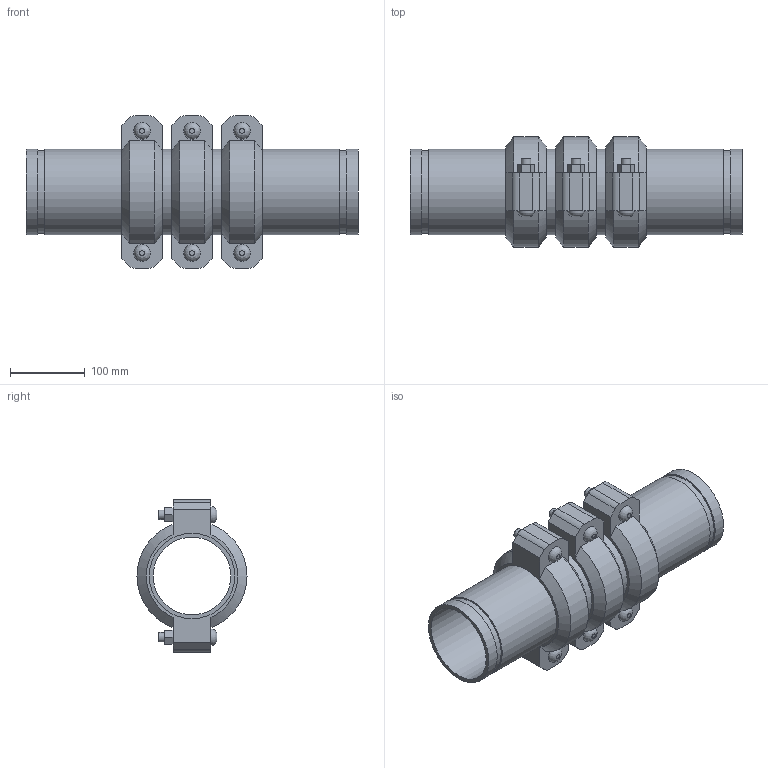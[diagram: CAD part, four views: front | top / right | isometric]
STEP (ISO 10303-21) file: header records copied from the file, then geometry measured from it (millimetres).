
FILE_DESCRIPTION(/* description */ ('VIC SS EXPANSION JOINT 3 COUPLINGS EXPANDED STYLE 155P (OGS) (POTABLE WATER) ','CAx-IF Rec.Pracs.---Representation and Presentation of Product Manufacturing Information (PMI)---4.0---2014-10-13'),/* implementation_level */ '2;1');
FILE_NAME(/* name */ 'C:\Users\kkamble\AppData\Roaming\Autodesk\ApplicationPlugins\Victaulic.Temp\A522\Victaulic_SS_Expansion Joint_Expanded_3 Couplings_Style 155P (OGS)-Potable Water_3 Coup_Expd_4 (100).stp',/* time_stamp */ '2021-07-16T16:50:12+05:00',/* author */ ('kkamble'),/* organization */ ('Victaulic'),/* preprocessor_version */ 'ST-DEVELOPER v17.2',/* originating_system */ 'Autodesk Inventor 2019',/* authorisation */ '');
FILE_SCHEMA (('AP242_MANAGED_MODEL_BASED_3D_ENGINEERING_MIM_LF { 1 0 10303 442 1 1 4 }'));
Length unit declared in the file: inch
Products named in the file (4): 155P-04.0; Nipple-04.0; Nipple-04.0_1; 075-04.0
Assembly tree (7 placements, depth 2):
  155P-04.0
    Nipple-04.0  x2
    Nipple-04.0_1  x2
    075-04.0  x3
Bounding box: 443.99 x 147.32 x 203.96 mm (x, y, z)
Volume: 2160960.5 mm3; surface area: 556630 mm2
Topology: 7 solids, 13 shells, 219 faces, 519 edges, 366 vertices
Faces by surface type: plane 132, cylinder 69, cone 12, bspline 6
Full cylindrical faces by diameter (mm): 12.7 x12, 14.605 x6, 103.988 x4, 107.95 x3, 110.084 x8, 114.3 x18
Entity records: 2760 total; most frequent: CARTESIAN_POINT 491, DIRECTION 457, ORIENTED_EDGE 386, EDGE_CURVE 193, AXIS2_PLACEMENT_3D 182, VERTEX_POINT 138, EDGE_LOOP 107, LINE 93
